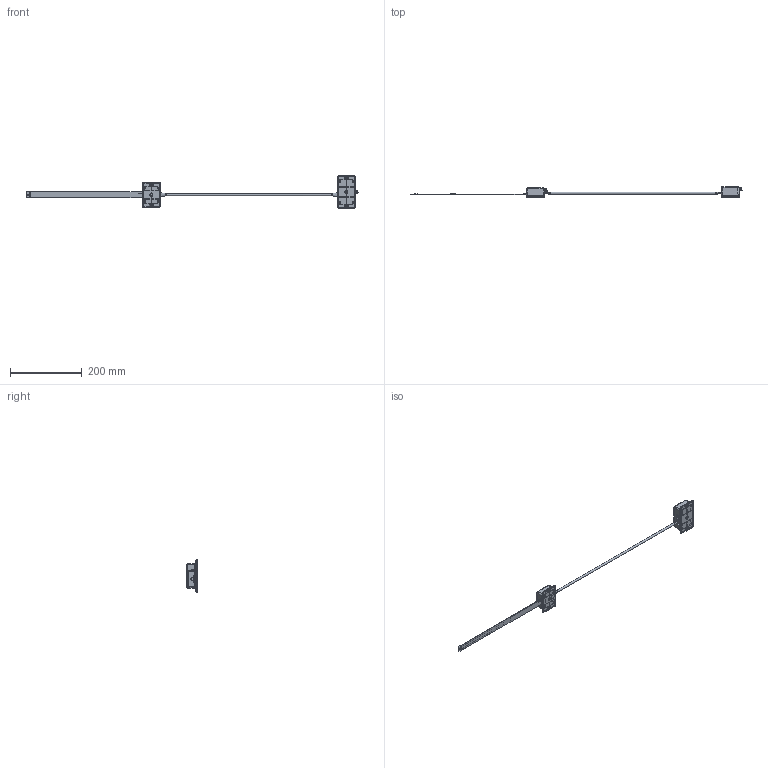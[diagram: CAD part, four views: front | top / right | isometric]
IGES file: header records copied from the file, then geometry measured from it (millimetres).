
Global section: file name: 70一体; native system: unknown; preprocessor: unknown; author: unknown; organization: unknown; date: 20210301.143352; units: millimetre
Bounding box: 928.03 x 29.9 x 90.4 mm (x, y, z)
Volume: 89221.7 mm3; surface area: 100179.6 mm2
Topology: 89 solids, 89 shells, 2903 faces, 7535 edges, 4932 vertices
Faces by surface type: bspline 2903
